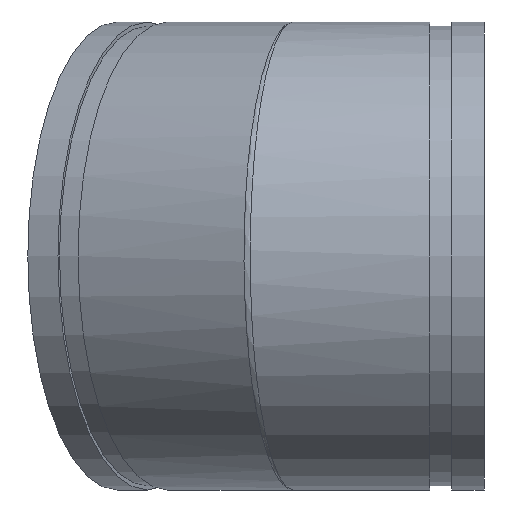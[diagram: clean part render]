
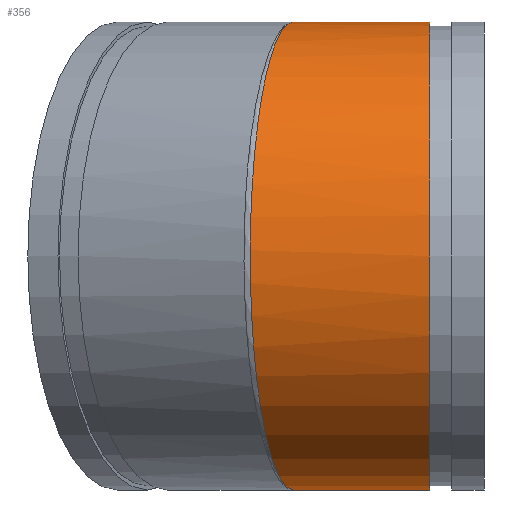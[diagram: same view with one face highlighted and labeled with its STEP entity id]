
A CAD part, left-side view. The second image highlights one B-rep face of the part: STEP entity #356.
In plain terms, the highlighted cylindrical face has radius 136.525 mm (diameter 273.05 mm), a full revolution.
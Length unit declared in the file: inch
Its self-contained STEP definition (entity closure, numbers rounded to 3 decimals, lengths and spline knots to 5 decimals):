
#66=LINE('',#762,#76);
#76=VECTOR('',#497,5.375);
#88=CIRCLE('',#411,5.375);
#108=CYLINDRICAL_SURFACE('',#410,5.375);
#121=FACE_OUTER_BOUND('',#142,.T.);
#142=EDGE_LOOP('',(#271,#272,#273,#274,#275,#276));
#165=ELLIPSE('',#394,5.49534,5.375);
#166=ELLIPSE('',#395,5.49534,5.375);
#168=ELLIPSE('',#399,5.46624,5.375);
#172=VERTEX_POINT('',#659);
#174=VERTEX_POINT('',#662);
#175=VERTEX_POINT('',#664);
#184=VERTEX_POINT('',#761);
#203=EDGE_CURVE('',#174,#175,#165,.T.);
#204=EDGE_CURVE('',#175,#172,#166,.T.);
#208=EDGE_CURVE('',#172,#174,#168,.T.);
#218=EDGE_CURVE('',#175,#184,#66,.T.);
#219=EDGE_CURVE('',#184,#184,#88,.T.);
#271=ORIENTED_EDGE('',*,*,#203,.F.);
#272=ORIENTED_EDGE('',*,*,#208,.F.);
#273=ORIENTED_EDGE('',*,*,#204,.F.);
#274=ORIENTED_EDGE('',*,*,#218,.T.);
#275=ORIENTED_EDGE('',*,*,#219,.F.);
#276=ORIENTED_EDGE('',*,*,#218,.F.);
#356=ADVANCED_FACE('',(#121),#108,.T.);
#394=AXIS2_PLACEMENT_3D('',#665,#460,#461);
#395=AXIS2_PLACEMENT_3D('',#666,#462,#463);
#399=AXIS2_PLACEMENT_3D('',#740,#471,#472);
#410=AXIS2_PLACEMENT_3D('',#760,#495,#496);
#411=AXIS2_PLACEMENT_3D('',#763,#498,#499);
#460=DIRECTION('center_axis',(0.208,0.978,0.));
#461=DIRECTION('ref_axis',(0.978,-0.208,0.));
#462=DIRECTION('center_axis',(0.208,0.978,0.));
#463=DIRECTION('ref_axis',(0.978,-0.208,0.));
#471=DIRECTION('center_axis',(0.182,0.983,0.));
#472=DIRECTION('ref_axis',(-0.983,0.182,0.));
#495=DIRECTION('center_axis',(0.,1.,0.));
#496=DIRECTION('ref_axis',(-1.,0.,0.));
#497=DIRECTION('',(0.,-1.,0.));
#498=DIRECTION('center_axis',(0.,-1.,0.));
#499=DIRECTION('ref_axis',(-1.,0.,0.));
#659=CARTESIAN_POINT('',(0.,4.38,-5.375));
#662=CARTESIAN_POINT('',(0.,4.38,5.375));
#664=CARTESIAN_POINT('',(5.375,3.23625,0.));
#665=CARTESIAN_POINT('Origin',(0.,4.38,0.));
#666=CARTESIAN_POINT('Origin',(0.,4.38,0.));
#740=CARTESIAN_POINT('Origin',(0.,4.38,0.));
#760=CARTESIAN_POINT('Origin',(0.,1.25,0.));
#761=CARTESIAN_POINT('',(5.375,1.25,0.));
#762=CARTESIAN_POINT('',(5.375,1.25,0.));
#763=CARTESIAN_POINT('Origin',(0.,1.25,0.));
